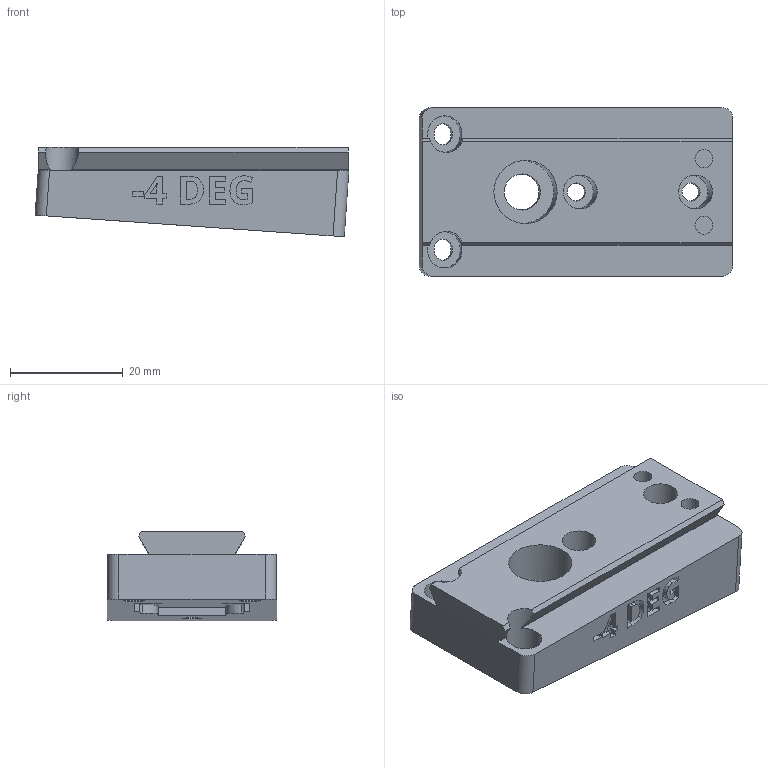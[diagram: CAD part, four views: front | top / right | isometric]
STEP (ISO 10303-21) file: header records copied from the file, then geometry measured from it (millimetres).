
FILE_DESCRIPTION(/* description */ ('STEP AP242 Edition 2','CAx-IF Rec.Pracs.---Representation and Presentation of Product Manufacturing Information (PMI)---4.0---2014-10-13','CAx-IF Rec.Pracs.---3D Tessellated Geometry---0.4---2014-09-14','2;1','CAx-IF Rec.Pracs.---User Defined Attributes---1.5---2016-08-15'),/* implementation_level */ '2;1');
FILE_NAME(/* name */ 'Camera Wedges - CAMERA MOUNTING WEDGE, NEG, -4 DEG',/* time_stamp */ '2026-08-11T00:11:18Z',/* author */ (''),/* organization */ (''),/* preprocessor_version */ 'ST-DEVELOPER v20',/* originating_system */ 'ONSHAPE BY PTC INC, 1.219',/* authorisation */ ' ');
FILE_SCHEMA (('AP242_MANAGED_MODEL_BASED_3D_ENGINEERING_MIM_LF { 1 0 10303 442 3 1 4 }'));
Length unit declared in the file: metre
Products named in the file (1): CAMERA MOUNTING WEDGE, NEG, -4 DEG
Bounding box: 55.69 x 30 x 15.87 mm (x, y, z)
Volume: 17144.1 mm3; surface area: 7133.6 mm2
Topology: 1 solids, 1 shells, 221 faces, 595 edges, 396 vertices
Faces by surface type: plane 151, cylinder 42, bspline 28
Full cylindrical faces by diameter (mm): 3.2 x4, 6 x2, 6.4 x1, 11.2 x1
Entity records: 6983 total; most frequent: CARTESIAN_POINT 1513, ORIENTED_EDGE 1174, DIRECTION 1015, EDGE_CURVE 587, LINE 435, VECTOR 435, VERTEX_POINT 396, AXIS2_PLACEMENT_3D 290
